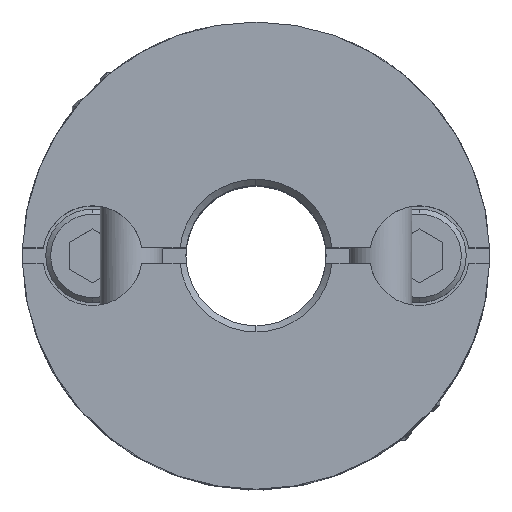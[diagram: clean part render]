
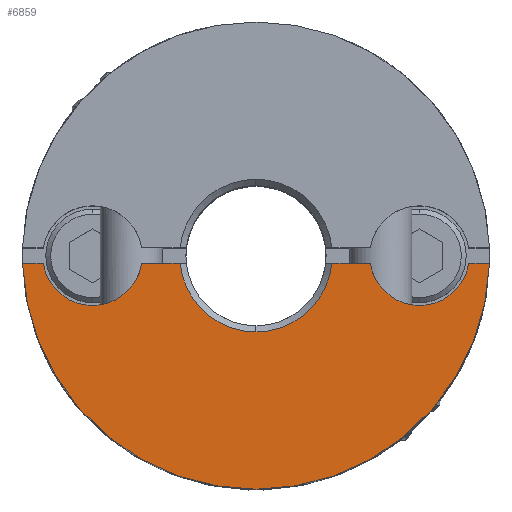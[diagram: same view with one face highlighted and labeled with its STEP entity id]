
A CAD part, top view. The second image highlights one B-rep face of the part: STEP entity #6859.
In plain terms, the highlighted planar face has unit normal (0, 0, 1).
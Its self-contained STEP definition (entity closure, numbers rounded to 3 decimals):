
#622=CARTESIAN_POINT('',(0.,-7.5,8.1));
#623=VERTEX_POINT('',#622);
#630=CARTESIAN_POINT('',(-7.496,-0.25,8.1));
#631=VERTEX_POINT('',#630);
#632=CARTESIAN_POINT('',(0.,0.,8.1));
#633=DIRECTION('',(0.0,0.0,-1.0));
#634=DIRECTION('',(0.0,1.0,0.0));
#635=AXIS2_PLACEMENT_3D('',#632,#633,#634);
#636=CIRCLE('',#635,7.5);
#637=EDGE_CURVE('',#623,#631,#636,.T.);
#983=CARTESIAN_POINT('',(0.,-2.45,8.1));
#984=VERTEX_POINT('',#983);
#1000=CARTESIAN_POINT('',(-2.437,-0.25,8.1));
#1001=VERTEX_POINT('',#1000);
#1015=CARTESIAN_POINT('',(0.,0.,8.1));
#1016=DIRECTION('',(0.0,0.0,1.0));
#1017=DIRECTION('',(0.0,-1.0,0.0));
#1018=AXIS2_PLACEMENT_3D('',#1015,#1016,#1017);
#1019=CIRCLE('',#1018,2.45);
#1020=EDGE_CURVE('',#1001,#984,#1019,.T.);
#1317=CARTESIAN_POINT('',(-5.25,-1.6,8.1));
#1318=VERTEX_POINT('',#1317);
#1334=CARTESIAN_POINT('',(-6.83,-0.25,8.1));
#1335=VERTEX_POINT('',#1334);
#1342=CARTESIAN_POINT('',(-5.25,0.,8.1));
#1343=DIRECTION('',(0.0,0.0,-1.0));
#1344=DIRECTION('',(0.0,1.0,0.0));
#1345=AXIS2_PLACEMENT_3D('',#1342,#1343,#1344);
#1346=CIRCLE('',#1345,1.6);
#1347=EDGE_CURVE('',#1318,#1335,#1346,.T.);
#1687=CARTESIAN_POINT('',(5.25,-1.6,8.1));
#1688=VERTEX_POINT('',#1687);
#1762=CARTESIAN_POINT('',(3.67,-0.25,8.1));
#1763=VERTEX_POINT('',#1762);
#1770=CARTESIAN_POINT('',(5.25,0.,8.1));
#1771=DIRECTION('',(0.0,0.0,-1.0));
#1772=DIRECTION('',(0.0,1.0,0.0));
#1773=AXIS2_PLACEMENT_3D('',#1770,#1771,#1772);
#1774=CIRCLE('',#1773,1.6);
#1775=EDGE_CURVE('',#1688,#1763,#1774,.T.);
#5991=CARTESIAN_POINT('',(6.83,-0.25,8.1));
#5992=VERTEX_POINT('',#5991);
#5993=CARTESIAN_POINT('',(5.25,0.,8.1));
#5994=DIRECTION('',(0.0,0.0,-1.0));
#5995=DIRECTION('',(0.0,1.0,0.0));
#5996=AXIS2_PLACEMENT_3D('',#5993,#5994,#5995);
#5997=CIRCLE('',#5996,1.6);
#5998=EDGE_CURVE('',#5992,#1688,#5997,.T.);
#6407=CARTESIAN_POINT('',(-3.67,-0.25,8.1));
#6408=VERTEX_POINT('',#6407);
#6415=CARTESIAN_POINT('',(-2.437,-0.25,8.1));
#6416=DIRECTION('',(-1.0,0.0,0.0));
#6417=VECTOR('',#6416,1.232);
#6418=LINE('',#6415,#6417);
#6419=EDGE_CURVE('',#1001,#6408,#6418,.T.);
#6531=CARTESIAN_POINT('',(-5.25,0.,8.1));
#6532=DIRECTION('',(0.0,0.0,-1.0));
#6533=DIRECTION('',(0.0,1.0,0.0));
#6534=AXIS2_PLACEMENT_3D('',#6531,#6532,#6533);
#6535=CIRCLE('',#6534,1.6);
#6536=EDGE_CURVE('',#6408,#1318,#6535,.T.);
#6649=CARTESIAN_POINT('',(2.437,-0.25,8.1));
#6650=VERTEX_POINT('',#6649);
#6664=CARTESIAN_POINT('',(3.67,-0.25,8.1));
#6665=DIRECTION('',(-1.0,0.0,0.0));
#6666=VECTOR('',#6665,1.232);
#6667=LINE('',#6664,#6666);
#6668=EDGE_CURVE('',#1763,#6650,#6667,.T.);
#6810=CARTESIAN_POINT('',(0.,0.,8.1));
#6811=DIRECTION('',(0.0,0.0,1.0));
#6812=DIRECTION('',(0.0,-1.0,0.0));
#6813=AXIS2_PLACEMENT_3D('',#6810,#6811,#6812);
#6814=CIRCLE('',#6813,2.45);
#6815=EDGE_CURVE('',#984,#6650,#6814,.T.);
#6822=CARTESIAN_POINT('',(0.,0.682,8.1));
#6823=DIRECTION('',(0.0,0.0,1.0));
#6824=DIRECTION('',(0.0,1.0,0.0));
#6825=AXIS2_PLACEMENT_3D('',#6822,#6823,#6824);
#6826=PLANE('',#6825);
#6827=ORIENTED_EDGE('',*,*,#1020,.F.);
#6828=ORIENTED_EDGE('',*,*,#6419,.T.);
#6829=ORIENTED_EDGE('',*,*,#6536,.T.);
#6830=ORIENTED_EDGE('',*,*,#1347,.T.);
#6831=CARTESIAN_POINT('',(-6.83,-0.25,8.1));
#6832=DIRECTION('',(-1.0,0.0,0.0));
#6833=VECTOR('',#6832,0.665);
#6834=LINE('',#6831,#6833);
#6835=EDGE_CURVE('',#1335,#631,#6834,.T.);
#6836=ORIENTED_EDGE('',*,*,#6835,.T.);
#6837=ORIENTED_EDGE('',*,*,#637,.F.);
#6838=CARTESIAN_POINT('',(7.496,-0.25,8.1));
#6839=VERTEX_POINT('',#6838);
#6840=CARTESIAN_POINT('',(0.,0.,8.1));
#6841=DIRECTION('',(0.0,0.0,-1.0));
#6842=DIRECTION('',(0.0,1.0,0.0));
#6843=AXIS2_PLACEMENT_3D('',#6840,#6841,#6842);
#6844=CIRCLE('',#6843,7.5);
#6845=EDGE_CURVE('',#6839,#623,#6844,.T.);
#6846=ORIENTED_EDGE('',*,*,#6845,.F.);
#6847=CARTESIAN_POINT('',(7.496,-0.25,8.1));
#6848=DIRECTION('',(-1.0,0.0,0.0));
#6849=VECTOR('',#6848,0.665);
#6850=LINE('',#6847,#6849);
#6851=EDGE_CURVE('',#6839,#5992,#6850,.T.);
#6852=ORIENTED_EDGE('',*,*,#6851,.T.);
#6853=ORIENTED_EDGE('',*,*,#5998,.T.);
#6854=ORIENTED_EDGE('',*,*,#1775,.T.);
#6855=ORIENTED_EDGE('',*,*,#6668,.T.);
#6856=ORIENTED_EDGE('',*,*,#6815,.F.);
#6857=EDGE_LOOP('',(#6827,#6828,#6829,#6830,#6836,#6837,#6846,#6852,#6853,#6854,#6855,#6856));
#6858=FACE_OUTER_BOUND('',#6857,.T.);
#6859=ADVANCED_FACE('',(#6858),#6826,.T.);
